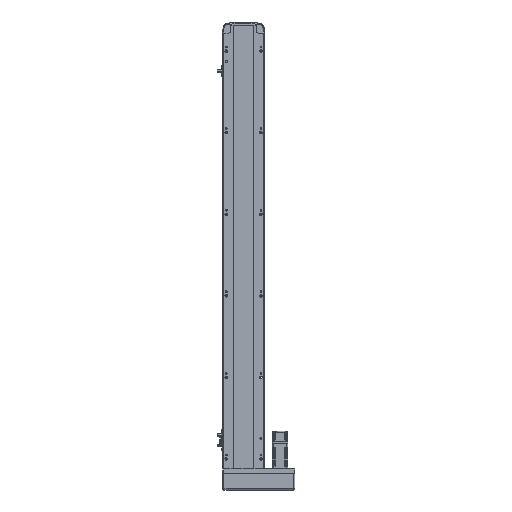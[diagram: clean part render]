
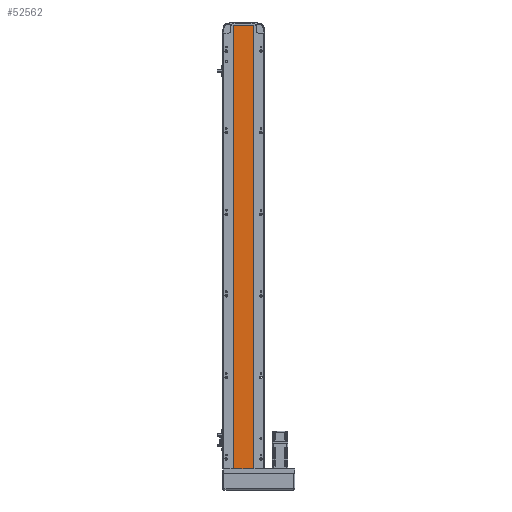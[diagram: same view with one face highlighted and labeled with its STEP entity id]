
A CAD part, front view. The second image highlights one B-rep face of the part: STEP entity #52562.
In plain terms, the highlighted planar face has unit normal (0, -1, 0).
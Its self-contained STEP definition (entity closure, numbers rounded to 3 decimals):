
#1110 = AXIS2_PLACEMENT_3D ( 'NONE', #30523, #38814, #11726 ) ;
#3753 = DIRECTION ( 'NONE',  ( 0., 0., -1. ) ) ;
#5558 = ORIENTED_EDGE ( 'NONE', *, *, #51691, .F. ) ;
#5696 = DIRECTION ( 'NONE',  ( 1., 0., 0. ) ) ;
#7054 = ORIENTED_EDGE ( 'NONE', *, *, #12235, .T. ) ;
#7466 = PLANE ( 'NONE',  #1110 ) ;
#7486 = DIRECTION ( 'NONE',  ( 0., 0., -1. ) ) ;
#8706 = ORIENTED_EDGE ( 'NONE', *, *, #31570, .T. ) ;
#11726 = DIRECTION ( 'NONE',  ( 0., 0., 1. ) ) ;
#12049 = CARTESIAN_POINT ( 'NONE',  ( 24.5, 2., 1087. ) ) ;
#12235 = EDGE_CURVE ( 'NONE', #29557, #43888, #53698, .T. ) ;
#15632 = LINE ( 'NONE', #25541, #47028 ) ;
#15921 = CARTESIAN_POINT ( 'NONE',  ( -24.5, 2., 1087. ) ) ;
#17059 = CARTESIAN_POINT ( 'NONE',  ( -24.5, 2., 0. ) ) ;
#19463 = EDGE_LOOP ( 'NONE', ( #7054, #38695, #5558, #8706 ) ) ;
#24717 = CARTESIAN_POINT ( 'NONE',  ( 0., 2., 0. ) ) ;
#25541 = CARTESIAN_POINT ( 'NONE',  ( 24.5, 2., 1087. ) ) ;
#26238 = CARTESIAN_POINT ( 'NONE',  ( -24.5, 2., 1087. ) ) ;
#27520 = VERTEX_POINT ( 'NONE', #26238 ) ;
#29557 = VERTEX_POINT ( 'NONE', #17059 ) ;
#29948 = EDGE_CURVE ( 'NONE', #42946, #43888, #15632, .T. ) ;
#30523 = CARTESIAN_POINT ( 'NONE',  ( 0., 2., 1087. ) ) ;
#31570 = EDGE_CURVE ( 'NONE', #27520, #29557, #51863, .T. ) ;
#36296 = CARTESIAN_POINT ( 'NONE',  ( -24.5, 2., 1087. ) ) ;
#36483 = CARTESIAN_POINT ( 'NONE',  ( 24.5, 2., 0. ) ) ;
#38695 = ORIENTED_EDGE ( 'NONE', *, *, #29948, .F. ) ;
#38814 = DIRECTION ( 'NONE',  ( 0., 1., 0. ) ) ;
#40541 = LINE ( 'NONE', #15921, #50492 ) ;
#41613 = VECTOR ( 'NONE', #44377, 1000. ) ;
#42946 = VERTEX_POINT ( 'NONE', #12049 ) ;
#43888 = VERTEX_POINT ( 'NONE', #36483 ) ;
#44377 = DIRECTION ( 'NONE',  ( 1., 0., 0. ) ) ;
#47028 = VECTOR ( 'NONE', #7486, 1000. ) ;
#49694 = VECTOR ( 'NONE', #3753, 1000. ) ;
#50492 = VECTOR ( 'NONE', #5696, 1000. ) ;
#51691 = EDGE_CURVE ( 'NONE', #27520, #42946, #40541, .T. ) ;
#51863 = LINE ( 'NONE', #36296, #49694 ) ;
#52562 = ADVANCED_FACE ( 'NONE', ( #53274 ), #7466, .F. ) ;
#53274 = FACE_OUTER_BOUND ( 'NONE', #19463, .T. ) ;
#53698 = LINE ( 'NONE', #24717, #41613 ) ;
